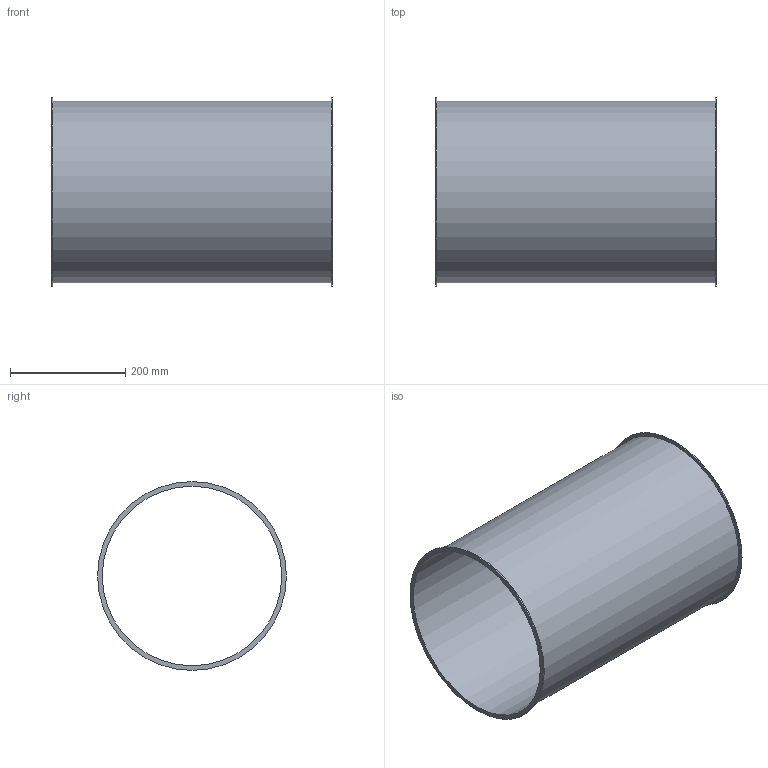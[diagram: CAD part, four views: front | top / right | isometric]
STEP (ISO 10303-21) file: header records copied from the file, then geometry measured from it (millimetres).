
FILE_DESCRIPTION((''),'2;1');
FILE_NAME('U:\Wolfgang\Marcel-3D\fertig\Kapitel 1\3121003.stp','2010-05-31T11:39:58',('TK2'),(''),'Autodesk Inventor 2010','Autodesk Inventor 2010','');
FILE_SCHEMA(('AUTOMOTIVE_DESIGN { 1 0 10303 214 1 1 1 1 }'));
Length unit declared in the file: millimetre
Products named in the file (1): 3121003
Bounding box: 488 x 328 x 328 mm (x, y, z)
Volume: 987063.3 mm3; surface area: 991159.9 mm2
Topology: 1 solids, 1 shells, 8 faces, 12 edges, 8 vertices
Faces by surface type: cylinder 4, plane 4
Full cylindrical faces by diameter (mm): 312 x1, 316 x1, 328 x2
Entity records: 194 total; most frequent: DIRECTION 34, CARTESIAN_POINT 25, AXIS2_PLACEMENT_3D 17, ORIENTED_EDGE 16, EDGE_LOOP 16, VERTEX_POINT 8, CIRCLE 8, EDGE_CURVE 8
